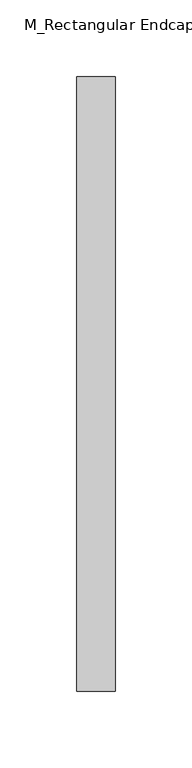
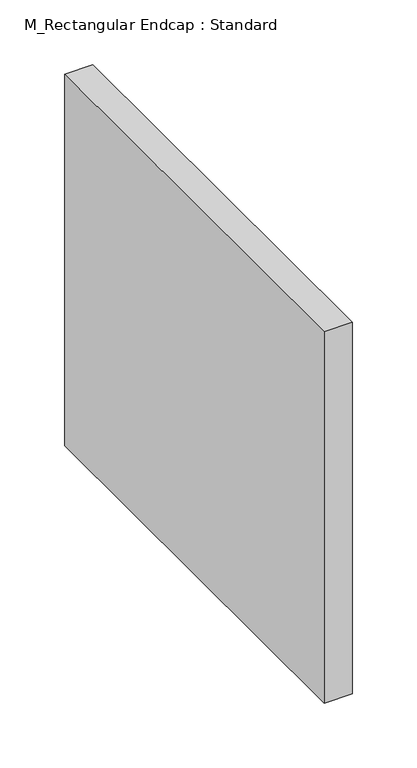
"""IFC4 building model written with IfcOpenShell, lengths in millimetres: duct fitting geometry, M_Rectangular Endcap : Standard."""

from ifc_helpers import new_model, si_unit, frame, origin, place, context, project, spatial, polyline, outline, extrude, source, transform, mapped, element, save


def m_rectangular_endcap_standard_2ff29291(model_context):
    return source(origin(), model_context, "Body", "SweptSolid", [
        extrude(outline(polyline([(0.0, -200.0), (0.0, 200.0), (25.0, 200.0), (25.0, -200.0), (0.0, -200.0)])), frame((0.0, 0.0, -175.0), z_axis=(0.0, 0.0, 1.0), x_axis=(1.0, 0.0, 0.0)), (0.0, 0.0, 1.0), 350.0),
    ])


if __name__ == "__main__":
    model = new_model("IFC4")
    model_context = context("Model", 3, world=origin())
    ifc_project = project(units=[si_unit("LENGTHUNIT", "METRE", prefix="MILLI")], contexts=[model_context])
    site = spatial("IfcSite", under=ifc_project)
    building = spatial("IfcBuilding", under=site)
    placement = place(None, origin())
    m_rectangular_endcap_standard_shape = m_rectangular_endcap_standard_2ff29291(model_context)
    element("IfcDuctFitting", 1, ObjectType="M_Rectangular Endcap : Standard", at=placement, inside=building, context=model_context, shape_type="MappedRepresentation", body=[
        mapped(m_rectangular_endcap_standard_shape, transform((0.0, 0.0, 0.0), x_axis=(1.0, 0.0, 0.0), y_axis=(0.0, 1.0, 0.0), z_axis=(0.0, 0.0, 1.0))),
    ])
    save(model, "model.ifc")
